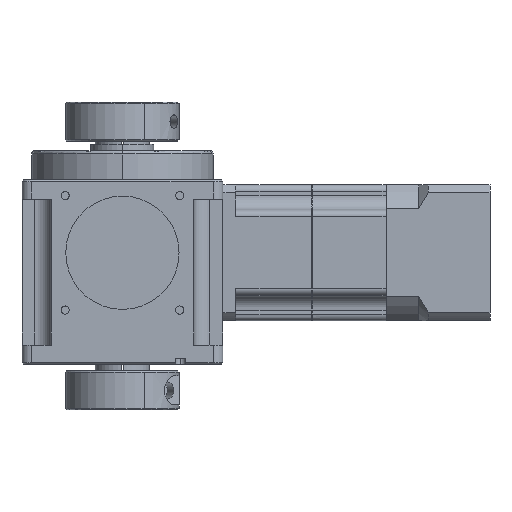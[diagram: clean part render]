
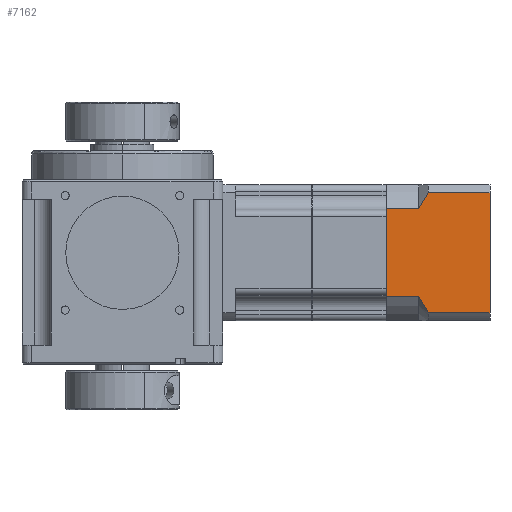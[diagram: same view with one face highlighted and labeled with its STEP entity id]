
A CAD part, left-side view. The second image highlights one B-rep face of the part: STEP entity #7162.
In plain terms, the highlighted planar face has unit normal (-1, 0, 0).
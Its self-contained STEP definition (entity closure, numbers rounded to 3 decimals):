
#47 = VERTEX_POINT ( 'NONE', #9968 ) ;
#424 = CARTESIAN_POINT ( 'NONE',  ( -21., 13.565, -56.5 ) ) ;
#985 = EDGE_CURVE ( 'NONE', #1968, #47, #9363, .T. ) ;
#1119 = EDGE_CURVE ( 'NONE', #10582, #1968, #10095, .T. ) ;
#1501 = VERTEX_POINT ( 'NONE', #6410 ) ;
#1654 = CARTESIAN_POINT ( 'NONE',  ( -21., -18.52, -78.5 ) ) ;
#1676 = ORIENTED_EDGE ( 'NONE', *, *, #6386, .T. ) ;
#1817 = LINE ( 'NONE', #9164, #6197 ) ;
#1968 = VERTEX_POINT ( 'NONE', #14398 ) ;
#2032 = CARTESIAN_POINT ( 'NONE',  ( -21., 13.565, -56.5 ) ) ;
#2147 = DIRECTION ( 'NONE',  ( 0., 1., 0. ) ) ;
#2788 = AXIS2_PLACEMENT_3D ( 'NONE', #14481, #8226, #6960 ) ;
#3005 = CARTESIAN_POINT ( 'NONE',  ( -21., 18.52, -59.5 ) ) ;
#3036 = EDGE_CURVE ( 'NONE', #12273, #1501, #1817, .T. ) ;
#3124 = VERTEX_POINT ( 'NONE', #1654 ) ;
#3436 = DIRECTION ( 'NONE',  ( 0., 0., 1. ) ) ;
#3562 = EDGE_CURVE ( 'NONE', #5403, #10582, #13245, .T. ) ;
#5016 = CARTESIAN_POINT ( 'NONE',  ( -21., -13.565, -56.5 ) ) ;
#5403 = VERTEX_POINT ( 'NONE', #5983 ) ;
#5808 = CARTESIAN_POINT ( 'NONE',  ( -21., 13.565, -46.6 ) ) ;
#5983 = CARTESIAN_POINT ( 'NONE',  ( -21., -18.52, -59.5 ) ) ;
#6015 = ORIENTED_EDGE ( 'NONE', *, *, #15345, .F. ) ;
#6088 = ORIENTED_EDGE ( 'NONE', *, *, #3562, .T. ) ;
#6197 = VECTOR ( 'NONE', #14193, 1000. ) ;
#6309 = VECTOR ( 'NONE', #9453, 1000. ) ;
#6386 = EDGE_CURVE ( 'NONE', #3124, #5403, #8907, .T. ) ;
#6410 = CARTESIAN_POINT ( 'NONE',  ( -21., 18.52, -59.5 ) ) ;
#6960 = DIRECTION ( 'NONE',  ( 0., 0., 1. ) ) ;
#7064 = VERTEX_POINT ( 'NONE', #11039 ) ;
#7162 = ADVANCED_FACE ( 'NONE', ( #9541 ), #13550, .T. ) ;
#7535 = EDGE_CURVE ( 'NONE', #7064, #47, #10931, .T. ) ;
#7674 = VECTOR ( 'NONE', #2147, 1000. ) ;
#7930 = CARTESIAN_POINT ( 'NONE',  ( -21., -13.565, -56.5 ) ) ;
#8226 = DIRECTION ( 'NONE',  ( -1., 0., 0. ) ) ;
#8464 = CARTESIAN_POINT ( 'NONE',  ( -21., 18.52, -78.5 ) ) ;
#8907 = LINE ( 'NONE', #13923, #11180 ) ;
#9164 = CARTESIAN_POINT ( 'NONE',  ( -21., 18.52, -78.5 ) ) ;
#9363 = LINE ( 'NONE', #5808, #6309 ) ;
#9453 = DIRECTION ( 'NONE',  ( 0., 1., 0. ) ) ;
#9526 = ORIENTED_EDGE ( 'NONE', *, *, #7535, .F. ) ;
#9541 = FACE_OUTER_BOUND ( 'NONE', #11766, .T. ) ;
#9627 = DIRECTION ( 'NONE',  ( 0., 0., 1. ) ) ;
#9846 = DIRECTION ( 'NONE',  ( 0., 0., 1. ) ) ;
#9968 = CARTESIAN_POINT ( 'NONE',  ( -21., 13.565, -46.6 ) ) ;
#10018 = VECTOR ( 'NONE', #9846, 1000. ) ;
#10095 = LINE ( 'NONE', #13628, #10018 ) ;
#10464 = CARTESIAN_POINT ( 'NONE',  ( -21., -15.258, -57.419 ) ) ;
#10582 = VERTEX_POINT ( 'NONE', #5016 ) ;
#10931 = LINE ( 'NONE', #2032, #10973 ) ;
#10973 = VECTOR ( 'NONE', #3436, 1000. ) ;
#11039 = CARTESIAN_POINT ( 'NONE',  ( -21., 13.565, -56.5 ) ) ;
#11180 = VECTOR ( 'NONE', #9627, 1000. ) ;
#11633 = ORIENTED_EDGE ( 'NONE', *, *, #985, .T. ) ;
#11766 = EDGE_LOOP ( 'NONE', ( #1676, #6088, #12749, #11633, #9526, #12881, #14858, #6015 ) ) ;
#11774 = CARTESIAN_POINT ( 'NONE',  ( -21., -18.52, -59.5 ) ) ;
#12031 = B_SPLINE_CURVE_WITH_KNOTS ( 'NONE', 3,
 ( #424, #15538, #14309, #3005 ),
 .UNSPECIFIED., .F., .F.,
 ( 4, 4 ),
 ( 0.034, 0.04 ),
 .UNSPECIFIED. ) ;
#12273 = VERTEX_POINT ( 'NONE', #8464 ) ;
#12749 = ORIENTED_EDGE ( 'NONE', *, *, #1119, .T. ) ;
#12881 = ORIENTED_EDGE ( 'NONE', *, *, #14851, .T. ) ;
#13245 = B_SPLINE_CURVE_WITH_KNOTS ( 'NONE', 3,
 ( #11774, #15252, #10464, #7930 ),
 .UNSPECIFIED., .F., .F.,
 ( 4, 4 ),
 ( 0., 0.006 ),
 .UNSPECIFIED. ) ;
#13550 = PLANE ( 'NONE',  #2788 ) ;
#13628 = CARTESIAN_POINT ( 'NONE',  ( -21., -13.565, -56.5 ) ) ;
#13923 = CARTESIAN_POINT ( 'NONE',  ( -21., -18.52, -78.5 ) ) ;
#14193 = DIRECTION ( 'NONE',  ( 0., 0., 1. ) ) ;
#14309 = CARTESIAN_POINT ( 'NONE',  ( -21., 16.905, -58.432 ) ) ;
#14398 = CARTESIAN_POINT ( 'NONE',  ( -21., -13.565, -46.6 ) ) ;
#14481 = CARTESIAN_POINT ( 'NONE',  ( -21., 0., -56.5 ) ) ;
#14851 = EDGE_CURVE ( 'NONE', #7064, #1501, #12031, .T. ) ;
#14858 = ORIENTED_EDGE ( 'NONE', *, *, #3036, .F. ) ;
#15009 = LINE ( 'NONE', #16000, #7674 ) ;
#15252 = CARTESIAN_POINT ( 'NONE',  ( -21., -16.903, -58.431 ) ) ;
#15345 = EDGE_CURVE ( 'NONE', #3124, #12273, #15009, .T. ) ;
#15538 = CARTESIAN_POINT ( 'NONE',  ( -21., 15.259, -57.42 ) ) ;
#16000 = CARTESIAN_POINT ( 'NONE',  ( -21., 0., -78.5 ) ) ;
